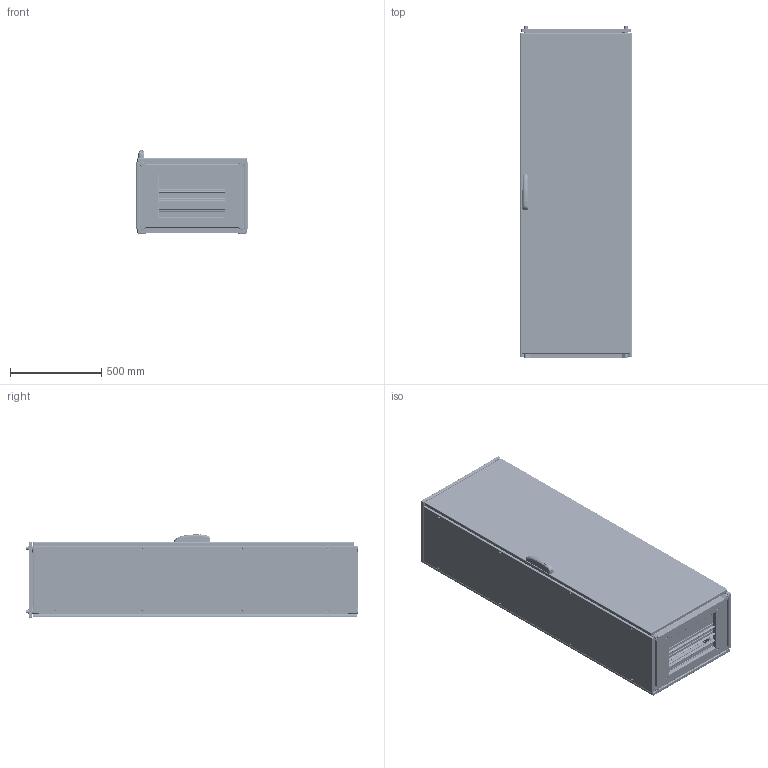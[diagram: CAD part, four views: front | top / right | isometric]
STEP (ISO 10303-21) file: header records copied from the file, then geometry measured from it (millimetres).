
FILE_DESCRIPTION (( 'STEP AP203' ), '1' );
FILE_NAME ('ENUX-061804PRXH.STEP', '2025-06-16T13:28:14', ( '' ), ( '' ), 'SwSTEP 2.0', 'SolidWorks 2022', '' );
FILE_SCHEMA (( 'CONFIG_CONTROL_DESIGN' ));
Length unit declared in the file: millimetre
Products named in the file (13): AR_ENUX_nuova_maniglia_mesan; AR_ENUX_Inox_Porta_singola_2.0_0600x1800_ANT; AR_ENUX_Inox_Tegolino_0600x0100; AR_ENUX_Inox_Retro_singolo_0600x1800; AR_ENUX_Inox_Struttura_0600x1800x0400; AR_ENUX_Inox_Tetto_0600x0400; AR_ENUX_Inox_Vite_tetto_inox; AR_ENUX_Inox_Rosetta_13x24x2.5_inox; AR_ENUX_Inox_Fianco_0400x1800_DX; AR_ENUX_Inox_Fianco_0400x1800_SX; AR_ENUX_Inox_Tegolino_0600x0050; AR_ENUX_Inox_montaggio_porta_singlola_2.0_0600x1800_ANT_DX; ENUX-061804PRXH
Assembly tree (19 placements, depth 3):
  ENUX-061804PRXH
    AR_ENUX_Inox_Struttura_0600x1800x0400
    AR_ENUX_Inox_Retro_singolo_0600x1800
    AR_ENUX_Inox_montaggio_porta_singlola_2.0_0600x1800_ANT_DX
      AR_ENUX_Inox_Porta_singola_2.0_0600x1800_ANT
      AR_ENUX_nuova_maniglia_mesan
    AR_ENUX_Inox_Fianco_0400x1800_SX
    AR_ENUX_Inox_Fianco_0400x1800_DX
    AR_ENUX_Inox_Tetto_0600x0400
    AR_ENUX_Inox_Vite_tetto_inox  x4
    AR_ENUX_Inox_Rosetta_13x24x2.5_inox  x4
    AR_ENUX_Inox_Tegolino_0600x0100
    AR_ENUX_Inox_Tegolino_0600x0050  x2
Bounding box: 612 x 1823 x 457 mm (x, y, z)
Volume: 7180872.7 mm3; surface area: 13535397.9 mm2
Topology: 17 solids, 18 shells, 7793 faces, 21947 edges, 14084 vertices
Faces by surface type: plane 4045, cylinder 2828, bspline 365, torus 275, cone 212, sphere 68
Entity records: 291594 total; most frequent: CARTESIAN_POINT 84310, ORIENTED_EDGE 42960, DIRECTION 41086, EDGE_CURVE 21480, LINE 14434, VECTOR 14434, VERTEX_POINT 13896, AXIS2_PLACEMENT_3D 13326
